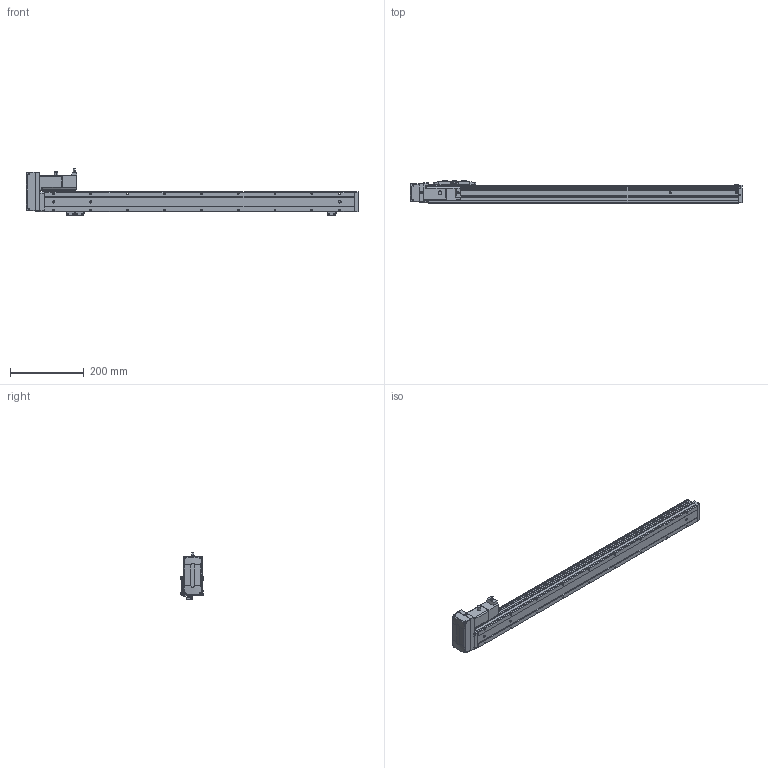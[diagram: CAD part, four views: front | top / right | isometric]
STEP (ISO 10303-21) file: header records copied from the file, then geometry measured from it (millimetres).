
FILE_DESCRIPTION (( 'STEP AP203' ), '1' );
FILE_NAME ('CTH5-L10-S700-BL-C10(¼ò).STEP', '2023-02-04T02:14:00', ( '' ), ( '' ), 'SwSTEP 2.0', 'SolidWorks 2018', '' );
FILE_SCHEMA (( 'CONFIG_CONTROL_DESIGN' ));
Length unit declared in the file: millimetre
Products named in the file (21): CTH5-L10-S700-BL-C10(潠); CTH5耜晚蹟隊; CTH5賑怢-2; CTH5耜晚蹟隊-1; 100W萇儂; CTH100W假蚾啣; CTH5菁釱-L840; M3｡｣; hex nuts, style 1-grades ab gb_GB_FASTENER_NUT_SNAB1 M3-N; 嫖萇羲壽郪磁1; CTH5覜茼え; PM-Y45; CTH5-BL-T10_body5; 内六角圆柱头螺钉M3-2; CTH5耜蚾蟀諉啣(潠); CTH5耜蚾欶; CTH嫖萇羲壽假蚾啣; CTH5ヶ耜啣(潠); CTH5綴耜啣; T10-p1; 葩璃 蚾饜极13^CTH8-L10-S50-BM-C40(潠)1
Assembly tree (35 placements, depth 3):
  CTH5-L10-S700-BL-C10(潠)
    CTH5綴耜啣
    CTH5賑怢-2
    CTH5ヶ耜啣(潠)
    CTH5菁釱-L840
    CTH5耜晚蹟隊  x2
    CTH5覜茼え
    CTH5耜晚蹟隊-1  x3
    CTH5耜蚾蟀諉啣(潠)
    CTH5耜蚾欶
      CTH5-BL-T10_body5
    100W萇儂
      T10-p1
    CTH100W假蚾啣
    葩璃 蚾饜极13^CTH8-L10-S50-BM-C40(潠)1  x2
      CTH嫖萇羲壽假蚾啣
      PM-Y45
      内六角圆柱头螺钉M3-2
      M3｡｣
      hex nuts, style 1-grades ab gb_GB_FASTENER_NUT_SNAB1 M3-N
    嫖萇羲壽郪磁1
      CTH嫖萇羲壽假蚾啣
      PM-Y45
      M3｡｣  x2
      内六角圆柱头螺钉M3-2  x2
      hex nuts, style 1-grades ab gb_GB_FASTENER_NUT_SNAB1 M3-N  x2
Bounding box: 900 x 60 x 126.31 mm (x, y, z)
Volume: 2178602.4 mm3; surface area: 302937.7 mm2
Topology: 38 solids, 38 shells, 1620 faces, 4077 edges, 2628 vertices
Faces by surface type: plane 881, cylinder 476, cone 207, torus 38, bspline 18
Entity records: 38130 total; most frequent: CARTESIAN_POINT 7089, DIRECTION 6059, ORIENTED_EDGE 5826, EDGE_CURVE 2913, AXIS2_PLACEMENT_3D 2093, LINE 1873, VECTOR 1873, VERTEX_POINT 1872
